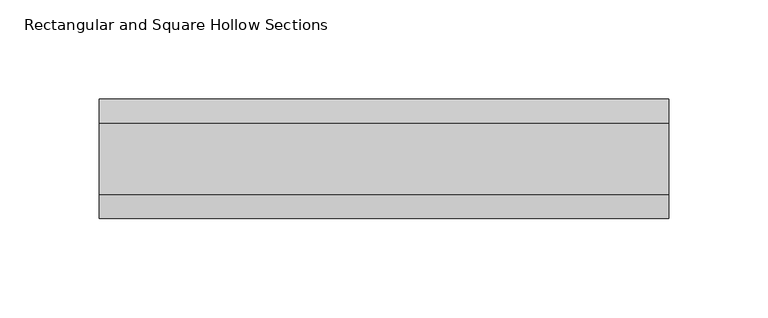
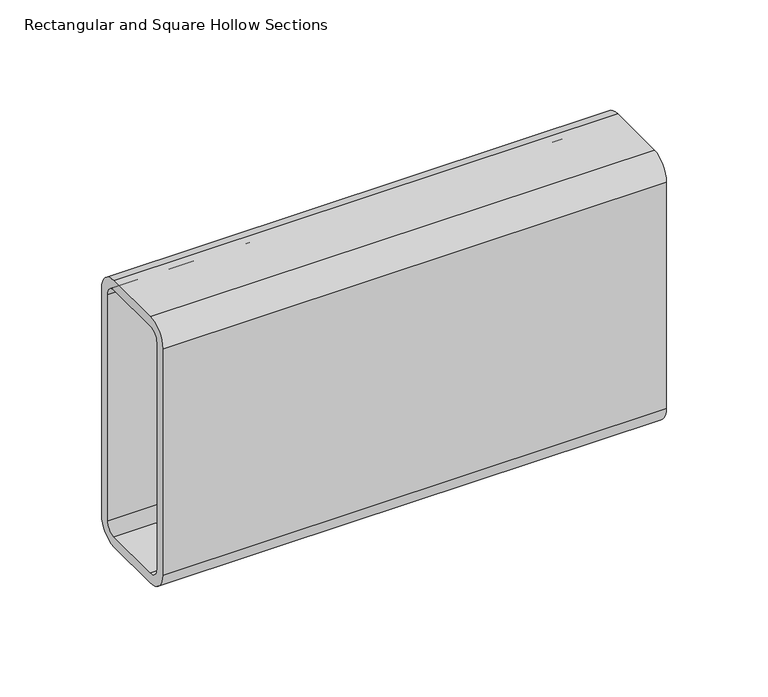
"""IFC4 building model written with IfcOpenShell, lengths in millimetres: beam geometry, Rectangular and Square Hollow Sections : TREC160x60x6."""

from ifc_helpers import new_model, si_unit, point, frame, frame_2d, origin, place, context, project, spatial, polyline, circle_curve, trimmed, segment, composite_curve, outline, extrude, source, transform, mapped, element, save


def rectangular_and_square_hollow_sections_9a3b0f0d(model_context):
    return source(origin(), model_context, "Body", "SweptSolid", [
        extrude(outline(composite_curve([segment(polyline([(30.0, 68.0), (30.0, -68.0)]), True, "CONTINUOUS"), segment(trimmed(circle_curve(frame_2d((18.0, -68.0)), 12.0), [point((30.0, -68.0))], [point((18.0, -80.0))], False, "CARTESIAN"), True, "CONTINUOUS"), segment(polyline([(18.0, -80.0), (-18.0, -80.0)]), True, "CONTINUOUS"), segment(trimmed(circle_curve(frame_2d((-18.0, -68.0)), 12.0), [point((-18.0, -80.0))], [point((-30.0, -68.0))], False, "CARTESIAN"), True, "CONTINUOUS"), segment(polyline([(-30.0, -68.0), (-30.0, 68.0)]), True, "CONTINUOUS"), segment(trimmed(circle_curve(frame_2d((-18.0, 68.0)), 12.0), [point((-30.0, 68.0))], [point((-18.0, 80.0))], False, "CARTESIAN"), True, "CONTINUOUS"), segment(polyline([(-18.0, 80.0), (18.0, 80.0)]), True, "CONTINUOUS"), segment(trimmed(circle_curve(frame_2d((18.0, 68.0)), 12.0), [point((18.0, 80.0))], [point((30.0, 68.0))], False, "CARTESIAN"), True, "CONTINUOUS")], self_intersect=False), holes=[composite_curve([segment(trimmed(circle_curve(frame_2d((-18.0, 68.0)), 6.0), [point((-18.0, 74.0))], [point((-24.0, 68.0))], True, "CARTESIAN"), True, "CONTINUOUS"), segment(polyline([(-24.0, 68.0), (-24.0, -68.0)]), True, "CONTINUOUS"), segment(trimmed(circle_curve(frame_2d((-18.0, -68.0)), 6.0), [point((-24.0, -68.0))], [point((-18.0, -74.0))], True, "CARTESIAN"), True, "CONTINUOUS"), segment(polyline([(-18.0, -74.0), (18.0, -74.0)]), True, "CONTINUOUS"), segment(trimmed(circle_curve(frame_2d((18.0, -68.0)), 6.0), [point((18.0, -74.0))], [point((24.0, -68.0))], True, "CARTESIAN"), True, "CONTINUOUS"), segment(polyline([(24.0, -68.0), (24.0, 68.0)]), True, "CONTINUOUS"), segment(trimmed(circle_curve(frame_2d((18.0, 68.0)), 6.0), [point((24.0, 68.0))], [point((18.0, 74.0))], True, "CARTESIAN"), True, "CONTINUOUS"), segment(polyline([(18.0, 74.0), (-18.0, 74.0)]), True, "CONTINUOUS")], self_intersect=False)]), frame((-143.0, 0.0, 0.0), z_axis=(1.0, 0.0, 0.0), x_axis=(0.0, 1.0, 0.0)), (0.0, 0.0, 1.0), 286.0),
    ])


if __name__ == "__main__":
    model = new_model("IFC4")
    model_context = context("Model", 3, world=origin())
    ifc_project = project(units=[si_unit("LENGTHUNIT", "METRE", prefix="MILLI")], contexts=[model_context])
    site = spatial("IfcSite", under=ifc_project)
    building = spatial("IfcBuilding", under=site)
    placement = place(None, origin())
    rectangular_and_square_hollow_sections_shape = rectangular_and_square_hollow_sections_9a3b0f0d(model_context)
    element("IfcBeam", 1, ObjectType="Rectangular and Square Hollow Sections : TREC160x60x6", at=placement, inside=building, context=model_context, shape_type="MappedRepresentation", body=[
        mapped(rectangular_and_square_hollow_sections_shape, transform((0.0, 0.0, 0.0), x_axis=(1.0, 0.0, 0.0), y_axis=(0.0, 1.0, 0.0), z_axis=(0.0, 0.0, 1.0))),
    ])
    save(model, "model.ifc")
